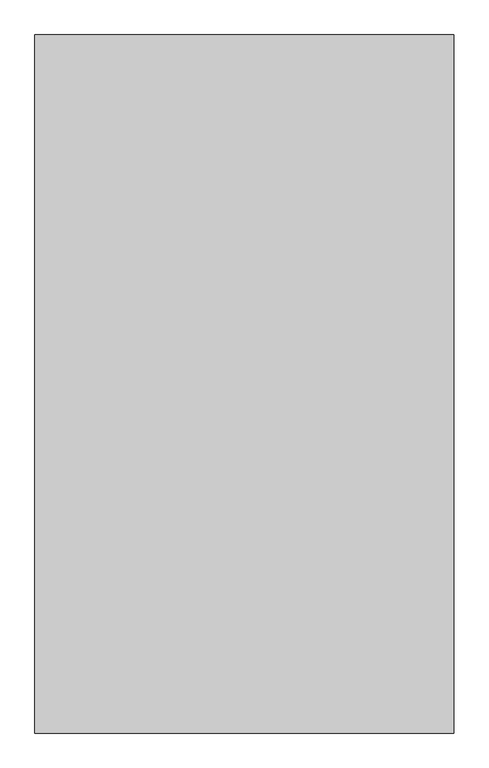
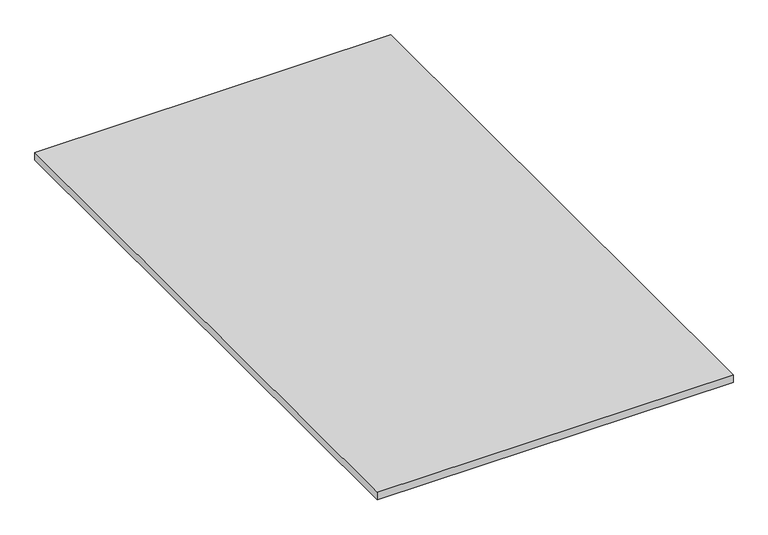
"""IFC4 building model written with IfcOpenShell, lengths in millimetres: proxy geometry, Base de duche16 : Base de duche."""

from ifc_helpers import new_model, si_unit, origin, origin_with_axes, place, context, project, spatial, polyline, outline, extrude, source, transform, mapped, element, save


def generic_models_80c7c1ce(model_context):
    return source(origin(), model_context, "Body", "SweptSolid", [
        extrude(outline(polyline([(28752.000777, 16442.1029258), (28752.000777, 14942.1029258), (27852.000777, 14942.1029258), (27852.000777, 16442.1029258), (28752.000777, 16442.1029258)])), origin_with_axes(), (0.0, 0.0, 1.0), 20.0),
    ])


if __name__ == "__main__":
    model = new_model("IFC4")
    model_context = context("Model", 3, world=origin())
    ifc_project = project(units=[si_unit("LENGTHUNIT", "METRE", prefix="MILLI")], contexts=[model_context])
    site = spatial("IfcSite", under=ifc_project)
    building = spatial("IfcBuilding", under=site)
    placement = place(None, origin())
    generic_models_shape = generic_models_80c7c1ce(model_context)
    element("IfcBuildingElementProxy", 1, Name="Base de duche16 : Base de duche", ObjectType="Base de duche16 : Base de duche", at=placement, inside=building, context=model_context, shape_type="MappedRepresentation", body=[
        mapped(generic_models_shape, transform((0.0, 0.0, 0.0), x_axis=(1.0, 0.0, 0.0), y_axis=(0.0, 1.0, 0.0), z_axis=(0.0, 0.0, 1.0))),
    ])
    save(model, "model.ifc")
